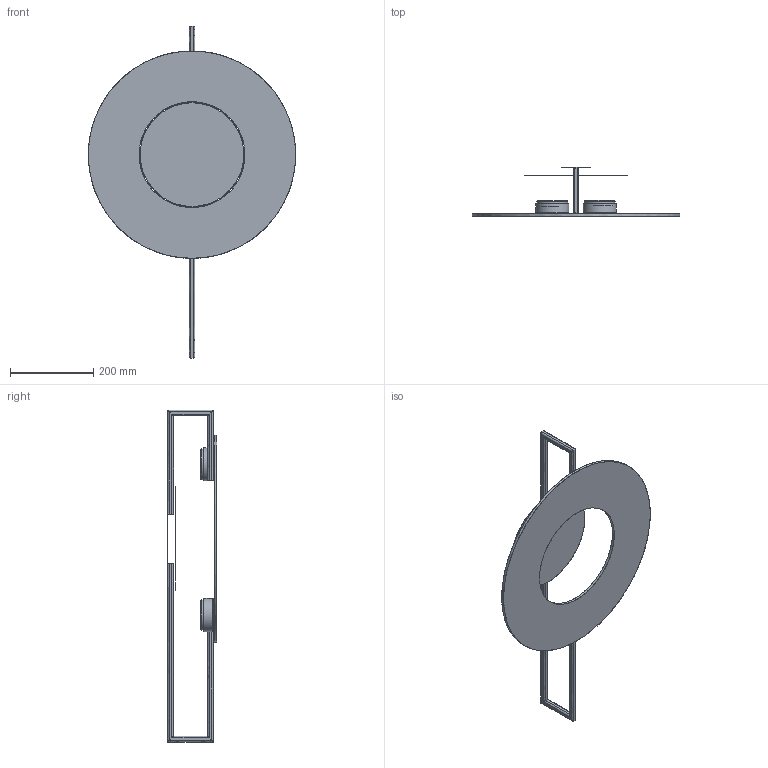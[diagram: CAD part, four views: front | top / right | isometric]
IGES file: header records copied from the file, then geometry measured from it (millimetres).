
Start section: SolidWorks IGES file using NURBS representation for surfaces
Global section: file name: Z:\Modele 3D_WWW\_KOLEKCJE_WWW\SUNSET\SUNSET-A-7653\SUNSET-A-7653.IGS; native system: SolidWorks 2021; preprocessor: SolidWorks 2021; author: gabriela.tworek; date: 211222.122151; units: millimetre
Bounding box: 500 x 118.9 x 800 mm (x, y, z)
Surface area: 629753.1 mm2 (no closed solid volume)
Topology: 0 solids, 0 shells, 171 faces, 829 edges, 800 vertices
Faces by surface type: bspline 171
